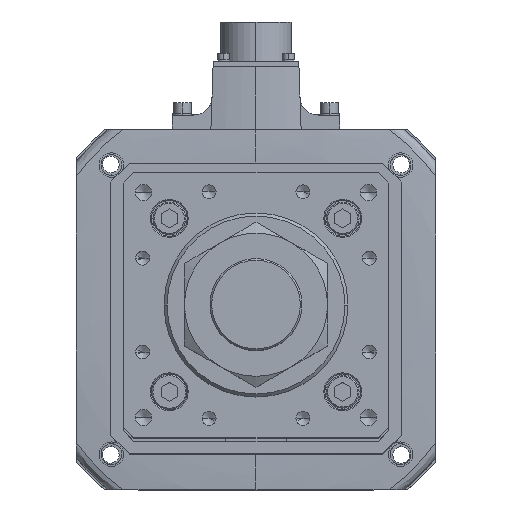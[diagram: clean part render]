
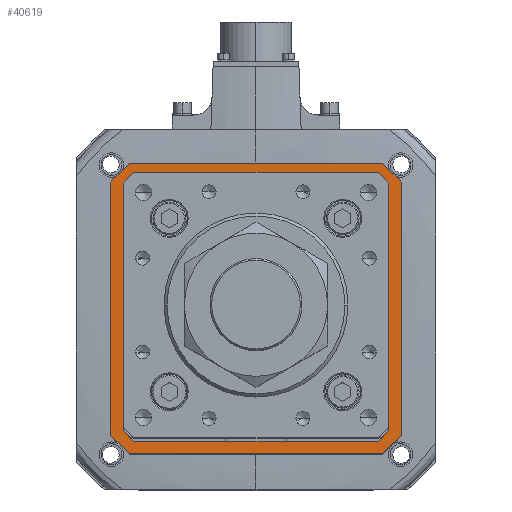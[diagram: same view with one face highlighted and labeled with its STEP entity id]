
A CAD part, top view. The second image highlights one B-rep face of the part: STEP entity #40619.
In plain terms, the highlighted planar face has unit normal (0, 0, 1).
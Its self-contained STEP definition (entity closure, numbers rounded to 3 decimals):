
#211 = CARTESIAN_POINT ( 'NONE',  ( 58.793, -63., -142. ) ) ;
#1341 = DIRECTION ( 'NONE',  ( 1., 0., 0. ) ) ;
#1432 = DIRECTION ( 'NONE',  ( 0.707, -0.707, 0. ) ) ;
#1598 = CARTESIAN_POINT ( 'NONE',  ( 62., -71., -142. ) ) ;
#1689 = CARTESIAN_POINT ( 'NONE',  ( -60.896, -60.896, -142. ) ) ;
#2099 = DIRECTION ( 'NONE',  ( 0.707, -0.707, 0. ) ) ;
#3219 = VECTOR ( 'NONE', #24707, 1000. ) ;
#3321 = ORIENTED_EDGE ( 'NONE', *, *, #40505, .T. ) ;
#3368 = DIRECTION ( 'NONE',  ( 0.707, 0.707, 0. ) ) ;
#3636 = CARTESIAN_POINT ( 'NONE',  ( -71., 62., -142. ) ) ;
#3733 = PLANE ( 'NONE',  #4903 ) ;
#4147 = VECTOR ( 'NONE', #2099, 1000. ) ;
#4511 = DIRECTION ( 'NONE',  ( 0., -1., 0. ) ) ;
#4615 = EDGE_CURVE ( 'NONE', #43410, #18492, #27561, .T. ) ;
#4637 = LINE ( 'NONE', #39569, #31399 ) ;
#4903 = AXIS2_PLACEMENT_3D ( 'NONE', #33608, #8012, #12299 ) ;
#6091 = EDGE_CURVE ( 'NONE', #23841, #34308, #26869, .T. ) ;
#6180 = ORIENTED_EDGE ( 'NONE', *, *, #25454, .T. ) ;
#6245 = LINE ( 'NONE', #1689, #16939 ) ;
#7089 = EDGE_CURVE ( 'NONE', #12304, #48283, #14712, .T. ) ;
#7156 = LINE ( 'NONE', #33892, #51136 ) ;
#7686 = CARTESIAN_POINT ( 'NONE',  ( -58.793, -63., -142. ) ) ;
#7817 = LINE ( 'NONE', #37491, #25157 ) ;
#7988 = VERTEX_POINT ( 'NONE', #10137 ) ;
#8012 = DIRECTION ( 'NONE',  ( 0., 0., 1. ) ) ;
#9271 = VECTOR ( 'NONE', #14547, 1000. ) ;
#9512 = ORIENTED_EDGE ( 'NONE', *, *, #45541, .F. ) ;
#9904 = LINE ( 'NONE', #54132, #3219 ) ;
#9977 = ORIENTED_EDGE ( 'NONE', *, *, #6091, .F. ) ;
#10137 = CARTESIAN_POINT ( 'NONE',  ( -58.793, 63., -142. ) ) ;
#10155 = CARTESIAN_POINT ( 'NONE',  ( 71., 62., -142. ) ) ;
#10550 = LINE ( 'NONE', #15821, #15227 ) ;
#11870 = CARTESIAN_POINT ( 'NONE',  ( -62., 71., -142. ) ) ;
#11898 = VECTOR ( 'NONE', #14394, 1000. ) ;
#12299 = DIRECTION ( 'NONE',  ( 1., 0., 0. ) ) ;
#12304 = VERTEX_POINT ( 'NONE', #41353 ) ;
#12603 = VERTEX_POINT ( 'NONE', #1598 ) ;
#12632 = EDGE_CURVE ( 'NONE', #33226, #43410, #52249, .T. ) ;
#12675 = DIRECTION ( 'NONE',  ( 0., 1., 0. ) ) ;
#13835 = ORIENTED_EDGE ( 'NONE', *, *, #53394, .F. ) ;
#14269 = CARTESIAN_POINT ( 'NONE',  ( 60.896, 60.896, -142. ) ) ;
#14394 = DIRECTION ( 'NONE',  ( -1., 0., 0. ) ) ;
#14547 = DIRECTION ( 'NONE',  ( -0.707, -0.707, 0. ) ) ;
#14712 = LINE ( 'NONE', #17968, #34776 ) ;
#14832 = DIRECTION ( 'NONE',  ( 0., -1., 0. ) ) ;
#15043 = ORIENTED_EDGE ( 'NONE', *, *, #37814, .T. ) ;
#15207 = VERTEX_POINT ( 'NONE', #35462 ) ;
#15227 = VECTOR ( 'NONE', #15279, 1000. ) ;
#15279 = DIRECTION ( 'NONE',  ( 1., 0., 0. ) ) ;
#15643 = LINE ( 'NONE', #11870, #27713 ) ;
#15821 = CARTESIAN_POINT ( 'NONE',  ( 62., 71., -142. ) ) ;
#16189 = VECTOR ( 'NONE', #12675, 1000. ) ;
#16905 = VECTOR ( 'NONE', #26963, 1000. ) ;
#16939 = VECTOR ( 'NONE', #29248, 1000. ) ;
#16963 = EDGE_CURVE ( 'NONE', #22267, #32533, #9904, .T. ) ;
#17816 = EDGE_CURVE ( 'NONE', #35842, #12603, #7817, .T. ) ;
#17968 = CARTESIAN_POINT ( 'NONE',  ( 63., 0., -142. ) ) ;
#18489 = EDGE_CURVE ( 'NONE', #12603, #33226, #7156, .T. ) ;
#18492 = VERTEX_POINT ( 'NONE', #3636 ) ;
#18918 = CARTESIAN_POINT ( 'NONE',  ( 71., 62., -142. ) ) ;
#20037 = LINE ( 'NONE', #36070, #9271 ) ;
#20915 = CARTESIAN_POINT ( 'NONE',  ( -71., 62., -142. ) ) ;
#21946 = LINE ( 'NONE', #31425, #11898 ) ;
#22267 = VERTEX_POINT ( 'NONE', #33254 ) ;
#22691 = CARTESIAN_POINT ( 'NONE',  ( -62., -71., -142. ) ) ;
#23841 = VERTEX_POINT ( 'NONE', #30421 ) ;
#24141 = CARTESIAN_POINT ( 'NONE',  ( -62., -71., -142. ) ) ;
#24374 = EDGE_LOOP ( 'NONE', ( #13835, #9512, #33808, #26480, #52332, #37264, #39065, #9977 ) ) ;
#24707 = DIRECTION ( 'NONE',  ( 0., 1., 0. ) ) ;
#24920 = CARTESIAN_POINT ( 'NONE',  ( -62., 71., -142. ) ) ;
#25157 = VECTOR ( 'NONE', #38198, 1000. ) ;
#25169 = CARTESIAN_POINT ( 'NONE',  ( -60.896, 60.896, -142. ) ) ;
#25348 = ORIENTED_EDGE ( 'NONE', *, *, #44159, .T. ) ;
#25454 = EDGE_CURVE ( 'NONE', #50583, #22267, #6245, .T. ) ;
#26480 = ORIENTED_EDGE ( 'NONE', *, *, #12632, .F. ) ;
#26869 = LINE ( 'NONE', #18918, #4147 ) ;
#26963 = DIRECTION ( 'NONE',  ( -0.707, 0.707, 0. ) ) ;
#27561 = LINE ( 'NONE', #20915, #16189 ) ;
#27713 = VECTOR ( 'NONE', #42790, 1000. ) ;
#27875 = VECTOR ( 'NONE', #1432, 1000. ) ;
#29248 = DIRECTION ( 'NONE',  ( -0.707, 0.707, 0. ) ) ;
#30394 = ORIENTED_EDGE ( 'NONE', *, *, #54160, .T. ) ;
#30417 = VECTOR ( 'NONE', #3368, 1000. ) ;
#30421 = CARTESIAN_POINT ( 'NONE',  ( 62., 71., -142. ) ) ;
#31399 = VECTOR ( 'NONE', #1341, 1000. ) ;
#31425 = CARTESIAN_POINT ( 'NONE',  ( 0., -63., -142. ) ) ;
#31775 = CARTESIAN_POINT ( 'NONE',  ( 71., -62., -142. ) ) ;
#32408 = LINE ( 'NONE', #25169, #30417 ) ;
#32533 = VERTEX_POINT ( 'NONE', #40846 ) ;
#33226 = VERTEX_POINT ( 'NONE', #24141 ) ;
#33254 = CARTESIAN_POINT ( 'NONE',  ( -63., -58.793, -142. ) ) ;
#33332 = ORIENTED_EDGE ( 'NONE', *, *, #37759, .T. ) ;
#33608 = CARTESIAN_POINT ( 'NONE',  ( 0., 0., -142. ) ) ;
#33808 = ORIENTED_EDGE ( 'NONE', *, *, #4615, .F. ) ;
#33840 = VERTEX_POINT ( 'NONE', #24920 ) ;
#33892 = CARTESIAN_POINT ( 'NONE',  ( 62., -71., -142. ) ) ;
#34308 = VERTEX_POINT ( 'NONE', #37427 ) ;
#34372 = VECTOR ( 'NONE', #14832, 1000. ) ;
#34776 = VECTOR ( 'NONE', #4511, 1000. ) ;
#35119 = FACE_OUTER_BOUND ( 'NONE', #24374, .T. ) ;
#35462 = CARTESIAN_POINT ( 'NONE',  ( 58.793, 63., -142. ) ) ;
#35842 = VERTEX_POINT ( 'NONE', #31775 ) ;
#36070 = CARTESIAN_POINT ( 'NONE',  ( 60.896, -60.896, -142. ) ) ;
#36579 = LINE ( 'NONE', #14269, #27875 ) ;
#36844 = ORIENTED_EDGE ( 'NONE', *, *, #16963, .T. ) ;
#37264 = ORIENTED_EDGE ( 'NONE', *, *, #17816, .F. ) ;
#37427 = CARTESIAN_POINT ( 'NONE',  ( 71., 62., -142. ) ) ;
#37491 = CARTESIAN_POINT ( 'NONE',  ( 71., -62., -142. ) ) ;
#37759 = EDGE_CURVE ( 'NONE', #48283, #40216, #20037, .T. ) ;
#37814 = EDGE_CURVE ( 'NONE', #7988, #15207, #4637, .T. ) ;
#38198 = DIRECTION ( 'NONE',  ( -0.707, -0.707, 0. ) ) ;
#39065 = ORIENTED_EDGE ( 'NONE', *, *, #45838, .F. ) ;
#39569 = CARTESIAN_POINT ( 'NONE',  ( 0., 63., -142. ) ) ;
#40216 = VERTEX_POINT ( 'NONE', #211 ) ;
#40505 = EDGE_CURVE ( 'NONE', #32533, #7988, #32408, .T. ) ;
#40619 = ADVANCED_FACE ( 'NONE', ( #54370, #35119 ), #3733, .T. ) ;
#40846 = CARTESIAN_POINT ( 'NONE',  ( -63., 58.793, -142. ) ) ;
#41353 = CARTESIAN_POINT ( 'NONE',  ( 63., 58.793, -142. ) ) ;
#42330 = CARTESIAN_POINT ( 'NONE',  ( -71., -62., -142. ) ) ;
#42790 = DIRECTION ( 'NONE',  ( 0.707, 0.707, 0. ) ) ;
#43410 = VERTEX_POINT ( 'NONE', #42330 ) ;
#44159 = EDGE_CURVE ( 'NONE', #15207, #12304, #36579, .T. ) ;
#45541 = EDGE_CURVE ( 'NONE', #18492, #33840, #15643, .T. ) ;
#45838 = EDGE_CURVE ( 'NONE', #34308, #35842, #54298, .T. ) ;
#46293 = DIRECTION ( 'NONE',  ( -1., 0., 0. ) ) ;
#47180 = ORIENTED_EDGE ( 'NONE', *, *, #7089, .T. ) ;
#48283 = VERTEX_POINT ( 'NONE', #48589 ) ;
#48589 = CARTESIAN_POINT ( 'NONE',  ( 63., -58.793, -142. ) ) ;
#50583 = VERTEX_POINT ( 'NONE', #7686 ) ;
#50644 = EDGE_LOOP ( 'NONE', ( #47180, #33332, #30394, #6180, #36844, #3321, #15043, #25348 ) ) ;
#51136 = VECTOR ( 'NONE', #46293, 1000. ) ;
#52249 = LINE ( 'NONE', #22691, #16905 ) ;
#52332 = ORIENTED_EDGE ( 'NONE', *, *, #18489, .F. ) ;
#53394 = EDGE_CURVE ( 'NONE', #33840, #23841, #10550, .T. ) ;
#54132 = CARTESIAN_POINT ( 'NONE',  ( -63., 0., -142. ) ) ;
#54160 = EDGE_CURVE ( 'NONE', #40216, #50583, #21946, .T. ) ;
#54298 = LINE ( 'NONE', #10155, #34372 ) ;
#54370 = FACE_BOUND ( 'NONE', #50644, .T. ) ;
